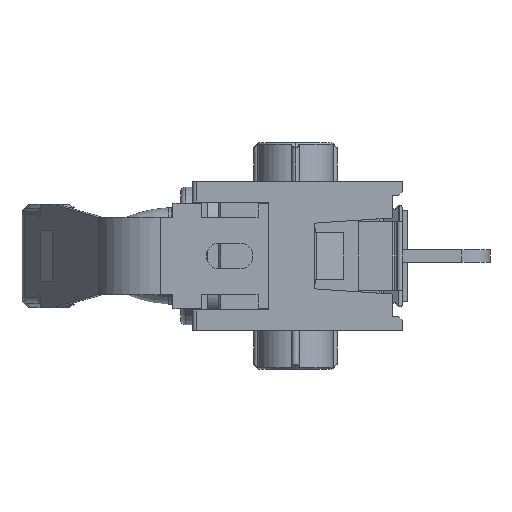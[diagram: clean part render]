
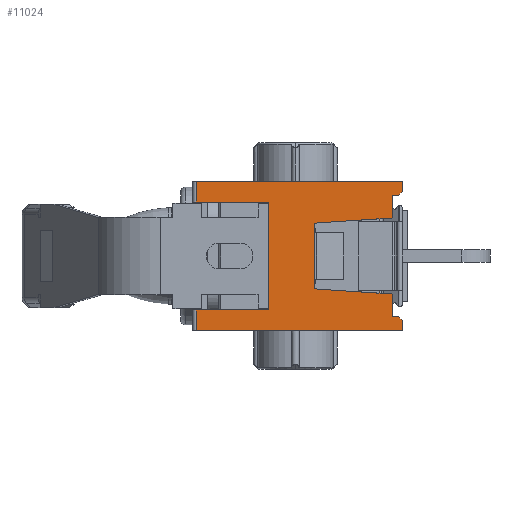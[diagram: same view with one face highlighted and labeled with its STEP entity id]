
A CAD part, left-side view. The second image highlights one B-rep face of the part: STEP entity #11024.
In plain terms, the highlighted planar face has unit normal (-1, 0, 0).
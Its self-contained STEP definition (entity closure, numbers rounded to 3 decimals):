
#6768 = CARTESIAN_POINT ( 'NONE',  ( -6.5, 0.2, 2.9 ) ) ;
#6769 = DIRECTION ( 'NONE',  ( 0., -1., 0. ) ) ;
#6770 = VECTOR ( 'NONE', #6769, 1000. ) ;
#6771 = CARTESIAN_POINT ( 'NONE',  ( -6.5, 8.355, 2.9 ) ) ;
#6772 = LINE ( 'NONE', #6771, #6770 ) ;
#6793 = CARTESIAN_POINT ( 'NONE',  ( -6.5, 8.205, 2.9 ) ) ;
#9278 = VERTEX_POINT ( 'NONE', #6793 ) ;
#9282 = EDGE_CURVE ( 'NONE', #9278, #9284, #6772, .T. ) ;
#9284 = VERTEX_POINT ( 'NONE', #6768 ) ;
#10413 = CARTESIAN_POINT ( 'NONE',  ( -6.5, 0.35, -2.352 ) ) ;
#10414 = DIRECTION ( 'NONE',  ( 0., 1., 0. ) ) ;
#10415 = VECTOR ( 'NONE', #10414, 1000. ) ;
#10416 = CARTESIAN_POINT ( 'NONE',  ( -6.5, 7.77, -2.353 ) ) ;
#10417 = LINE ( 'NONE', #10416, #10415 ) ;
#10418 = CARTESIAN_POINT ( 'NONE',  ( -6.5, 0.6, -2.352 ) ) ;
#10636 = VERTEX_POINT ( 'NONE', #10418 ) ;
#10638 = EDGE_CURVE ( 'NONE', #10639, #10636, #10417, .T. ) ;
#10639 = VERTEX_POINT ( 'NONE', #10413 ) ;
#10728 = VERTEX_POINT ( 'NONE', #11536 ) ;
#10764 = EDGE_CURVE ( 'NONE', #10765, #10728, #12016, .T. ) ;
#10765 = VERTEX_POINT ( 'NONE', #12012 ) ;
#10951 = ORIENTED_EDGE ( 'NONE', *, *, #10952, .T. ) ;
#10952 = EDGE_CURVE ( 'NONE', #11002, #10953, #13566, .T. ) ;
#10953 = VERTEX_POINT ( 'NONE', #13558 ) ;
#10954 = ORIENTED_EDGE ( 'NONE', *, *, #10955, .T. ) ;
#10955 = EDGE_CURVE ( 'NONE', #10953, #12417, #13551, .T. ) ;
#10956 = ORIENTED_EDGE ( 'NONE', *, *, #12192, .T. ) ;
#10957 = ORIENTED_EDGE ( 'NONE', *, *, #12335, .T. ) ;
#10958 = ORIENTED_EDGE ( 'NONE', *, *, #12316, .T. ) ;
#10990 = ORIENTED_EDGE ( 'NONE', *, *, #10764, .T. ) ;
#10991 = ORIENTED_EDGE ( 'NONE', *, *, #11808, .T. ) ;
#10992 = ORIENTED_EDGE ( 'NONE', *, *, #11764, .T. ) ;
#10993 = ORIENTED_EDGE ( 'NONE', *, *, #10638, .T. ) ;
#10994 = ORIENTED_EDGE ( 'NONE', *, *, #10995, .T. ) ;
#10995 = EDGE_CURVE ( 'NONE', #10636, #10996, #13280, .T. ) ;
#10996 = VERTEX_POINT ( 'NONE', #13272 ) ;
#10997 = ORIENTED_EDGE ( 'NONE', *, *, #10998, .T. ) ;
#10998 = EDGE_CURVE ( 'NONE', #10996, #10999, #13269, .T. ) ;
#10999 = VERTEX_POINT ( 'NONE', #13261 ) ;
#11000 = ORIENTED_EDGE ( 'NONE', *, *, #11001, .T. ) ;
#11001 = EDGE_CURVE ( 'NONE', #10999, #11002, #13256, .T. ) ;
#11002 = VERTEX_POINT ( 'NONE', #13250 ) ;
#11024 = ADVANCED_FACE ( 'NONE', ( #15818 ), #15717, .F. ) ;
#11025 = EDGE_LOOP ( 'NONE', ( #11026, #11027, #11030, #11033, #11036, #11039, #10990, #10991, #10992, #10993, #10994, #10997, #11000, #10951, #10954, #10956, #10957, #10958 ) ) ;
#11026 = ORIENTED_EDGE ( 'NONE', *, *, #9282, .F. ) ;
#11027 = ORIENTED_EDGE ( 'NONE', *, *, #11028, .T. ) ;
#11028 = EDGE_CURVE ( 'NONE', #9278, #11029, #15712, .T. ) ;
#11029 = VERTEX_POINT ( 'NONE', #15708 ) ;
#11030 = ORIENTED_EDGE ( 'NONE', *, *, #11031, .F. ) ;
#11031 = EDGE_CURVE ( 'NONE', #11032, #11029, #15707, .T. ) ;
#11032 = VERTEX_POINT ( 'NONE', #15703 ) ;
#11033 = ORIENTED_EDGE ( 'NONE', *, *, #11034, .T. ) ;
#11034 = EDGE_CURVE ( 'NONE', #11032, #11035, #15702, .T. ) ;
#11035 = VERTEX_POINT ( 'NONE', #15698 ) ;
#11036 = ORIENTED_EDGE ( 'NONE', *, *, #11037, .F. ) ;
#11037 = EDGE_CURVE ( 'NONE', #11038, #11035, #15697, .T. ) ;
#11038 = VERTEX_POINT ( 'NONE', #15693 ) ;
#11039 = ORIENTED_EDGE ( 'NONE', *, *, #11040, .T. ) ;
#11040 = EDGE_CURVE ( 'NONE', #11038, #10765, #15692, .T. ) ;
#11536 = CARTESIAN_POINT ( 'NONE',  ( -6.5, 0.2, -2.9 ) ) ;
#11764 = EDGE_CURVE ( 'NONE', #11806, #10639, #15249, .T. ) ;
#11806 = VERTEX_POINT ( 'NONE', #15555 ) ;
#11808 = EDGE_CURVE ( 'NONE', #10728, #11806, #15553, .T. ) ;
#12012 = CARTESIAN_POINT ( 'NONE',  ( -6.5, 8.205, -2.9 ) ) ;
#12013 = DIRECTION ( 'NONE',  ( 0., -1., 0. ) ) ;
#12014 = VECTOR ( 'NONE', #12013, 1000. ) ;
#12015 = CARTESIAN_POINT ( 'NONE',  ( -6.5, 8.355, -2.9 ) ) ;
#12016 = LINE ( 'NONE', #12015, #12014 ) ;
#12188 = VERTEX_POINT ( 'NONE', #16213 ) ;
#12192 = EDGE_CURVE ( 'NONE', #12417, #12188, #16211, .T. ) ;
#12316 = EDGE_CURVE ( 'NONE', #12333, #9284, #16372, .T. ) ;
#12333 = VERTEX_POINT ( 'NONE', #16713 ) ;
#12335 = EDGE_CURVE ( 'NONE', #12188, #12333, #16711, .T. ) ;
#12417 = VERTEX_POINT ( 'NONE', #16866 ) ;
#13250 = CARTESIAN_POINT ( 'NONE',  ( -6.5, 3.6, 1.275 ) ) ;
#13251 = DIRECTION ( 'NONE',  ( 0., 0., 1. ) ) ;
#13253 = VECTOR ( 'NONE', #13251, 1000. ) ;
#13254 = CARTESIAN_POINT ( 'NONE',  ( -6.5, 3.6, -2.352 ) ) ;
#13256 = LINE ( 'NONE', #13254, #13253 ) ;
#13261 = CARTESIAN_POINT ( 'NONE',  ( -6.5, 3.6, -1.275 ) ) ;
#13264 = DIRECTION ( 'NONE',  ( 0., 0.998, 0.067 ) ) ;
#13265 = VECTOR ( 'NONE', #13264, 1000. ) ;
#13267 = CARTESIAN_POINT ( 'NONE',  ( -6.5, 0.6, -1.475 ) ) ;
#13269 = LINE ( 'NONE', #13267, #13265 ) ;
#13272 = CARTESIAN_POINT ( 'NONE',  ( -6.5, 0.6, -1.475 ) ) ;
#13274 = DIRECTION ( 'NONE',  ( 0., 0., 1. ) ) ;
#13276 = VECTOR ( 'NONE', #13274, 1000. ) ;
#13278 = CARTESIAN_POINT ( 'NONE',  ( -6.5, 0.6, -2.352 ) ) ;
#13280 = LINE ( 'NONE', #13278, #13276 ) ;
#13547 = DIRECTION ( 'NONE',  ( 0., 0., 1. ) ) ;
#13548 = VECTOR ( 'NONE', #13547, 1000. ) ;
#13550 = CARTESIAN_POINT ( 'NONE',  ( -6.5, 0.6, 1.475 ) ) ;
#13551 = LINE ( 'NONE', #13550, #13548 ) ;
#13558 = CARTESIAN_POINT ( 'NONE',  ( -6.5, 0.6, 1.475 ) ) ;
#13560 = DIRECTION ( 'NONE',  ( 0., -0.998, 0.067 ) ) ;
#13561 = VECTOR ( 'NONE', #13560, 1000. ) ;
#13562 = CARTESIAN_POINT ( 'NONE',  ( -6.5, 3.6, 1.275 ) ) ;
#13566 = LINE ( 'NONE', #13562, #13561 ) ;
#15246 = DIRECTION ( 'NONE',  ( 0., 0.707, 0.707 ) ) ;
#15247 = VECTOR ( 'NONE', #15246, 1000. ) ;
#15248 = CARTESIAN_POINT ( 'NONE',  ( -6.5, 0.2, -2.502 ) ) ;
#15249 = LINE ( 'NONE', #15248, #15247 ) ;
#15550 = DIRECTION ( 'NONE',  ( 0., 0., 1. ) ) ;
#15551 = VECTOR ( 'NONE', #15550, 1000. ) ;
#15552 = CARTESIAN_POINT ( 'NONE',  ( -6.5, 0.2, -2.502 ) ) ;
#15553 = LINE ( 'NONE', #15552, #15551 ) ;
#15555 = CARTESIAN_POINT ( 'NONE',  ( -6.5, 0.2, -2.502 ) ) ;
#15689 = DIRECTION ( 'NONE',  ( 0., 0., -1. ) ) ;
#15690 = VECTOR ( 'NONE', #15689, 1000. ) ;
#15691 = CARTESIAN_POINT ( 'NONE',  ( -6.5, 8.205, 2.9 ) ) ;
#15692 = LINE ( 'NONE', #15691, #15690 ) ;
#15693 = CARTESIAN_POINT ( 'NONE',  ( -6.5, 8.205, -2.095 ) ) ;
#15694 = DIRECTION ( 'NONE',  ( 0., -1., 0. ) ) ;
#15695 = VECTOR ( 'NONE', #15694, 1000. ) ;
#15696 = CARTESIAN_POINT ( 'NONE',  ( -6.5, 8.355, -2.095 ) ) ;
#15697 = LINE ( 'NONE', #15696, #15695 ) ;
#15698 = CARTESIAN_POINT ( 'NONE',  ( -6.5, 5.39, -2.095 ) ) ;
#15699 = DIRECTION ( 'NONE',  ( 0., 0., -1. ) ) ;
#15700 = VECTOR ( 'NONE', #15699, 1000. ) ;
#15701 = CARTESIAN_POINT ( 'NONE',  ( -6.5, 5.39, -2.095 ) ) ;
#15702 = LINE ( 'NONE', #15701, #15700 ) ;
#15703 = CARTESIAN_POINT ( 'NONE',  ( -6.5, 5.39, 2.095 ) ) ;
#15704 = DIRECTION ( 'NONE',  ( 0., 1., 0. ) ) ;
#15705 = VECTOR ( 'NONE', #15704, 1000. ) ;
#15706 = CARTESIAN_POINT ( 'NONE',  ( -6.5, 8.355, 2.095 ) ) ;
#15707 = LINE ( 'NONE', #15706, #15705 ) ;
#15708 = CARTESIAN_POINT ( 'NONE',  ( -6.5, 8.205, 2.095 ) ) ;
#15709 = DIRECTION ( 'NONE',  ( 0., 0., -1. ) ) ;
#15710 = VECTOR ( 'NONE', #15709, 1000. ) ;
#15711 = CARTESIAN_POINT ( 'NONE',  ( -6.5, 8.205, 2.9 ) ) ;
#15712 = LINE ( 'NONE', #15711, #15710 ) ;
#15713 = DIRECTION ( 'NONE',  ( 0., 0., -1. ) ) ;
#15714 = DIRECTION ( 'NONE',  ( 1., 0., 0. ) ) ;
#15715 = CARTESIAN_POINT ( 'NONE',  ( -6.5, 8.355, 2.9 ) ) ;
#15716 = AXIS2_PLACEMENT_3D ( 'NONE', #15715, #15714, #15713 ) ;
#15717 = PLANE ( 'NONE',  #15716 ) ;
#15818 = FACE_OUTER_BOUND ( 'NONE', #11025, .T. ) ;
#16208 = DIRECTION ( 'NONE',  ( 0., -1., 0. ) ) ;
#16209 = VECTOR ( 'NONE', #16208, 1000. ) ;
#16210 = CARTESIAN_POINT ( 'NONE',  ( -6.5, 7.77, 2.353 ) ) ;
#16211 = LINE ( 'NONE', #16210, #16209 ) ;
#16213 = CARTESIAN_POINT ( 'NONE',  ( -6.5, 0.35, 2.352 ) ) ;
#16369 = DIRECTION ( 'NONE',  ( 0., 0., 1. ) ) ;
#16370 = VECTOR ( 'NONE', #16369, 1000. ) ;
#16371 = CARTESIAN_POINT ( 'NONE',  ( -6.5, 0.2, 2.502 ) ) ;
#16372 = LINE ( 'NONE', #16371, #16370 ) ;
#16708 = DIRECTION ( 'NONE',  ( 0., -0.707, 0.707 ) ) ;
#16709 = VECTOR ( 'NONE', #16708, 1000. ) ;
#16710 = CARTESIAN_POINT ( 'NONE',  ( -6.5, 0.2, 2.502 ) ) ;
#16711 = LINE ( 'NONE', #16710, #16709 ) ;
#16713 = CARTESIAN_POINT ( 'NONE',  ( -6.5, 0.2, 2.502 ) ) ;
#16866 = CARTESIAN_POINT ( 'NONE',  ( -6.5, 0.6, 2.352 ) ) ;
